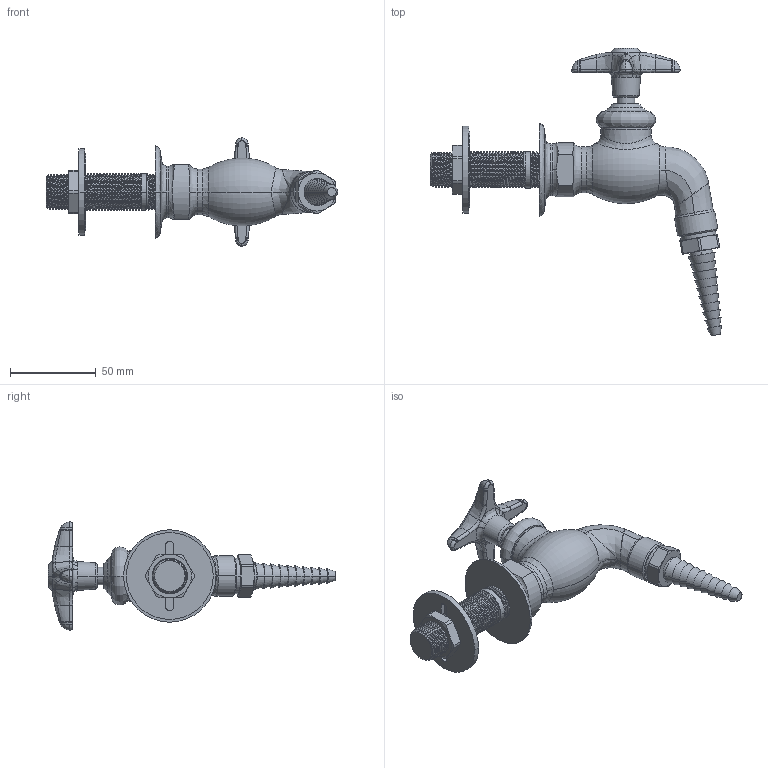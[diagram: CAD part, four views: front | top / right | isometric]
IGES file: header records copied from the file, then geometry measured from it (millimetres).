
Start section:  PTC IGES file: LWV4-B11.igs
Global section: file name: LWV4-B11.igs; native system: Creo Parametric by PTC Inc.; preprocessor: 2014500; author: usch_engrender; organization: Unknown; date: 20150915.131506; units: inch
Bounding box: 170.24 x 168.05 x 63.42 mm (x, y, z)
Volume: 155817.4 mm3; surface area: 37778.9 mm2
Topology: 1 solids, 4 shells, 540 faces, 1346 edges, 831 vertices
Faces by surface type: bspline 304, revolution 236
